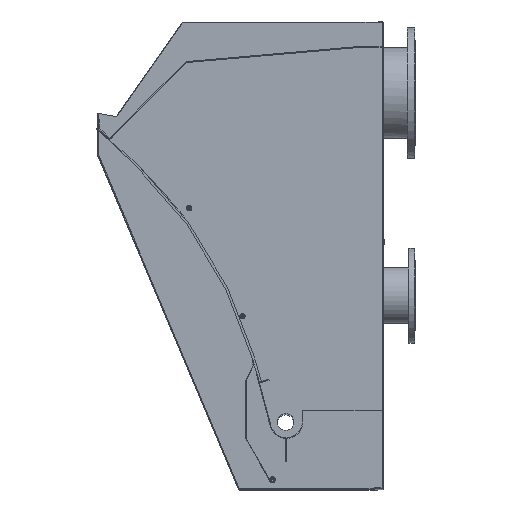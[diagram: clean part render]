
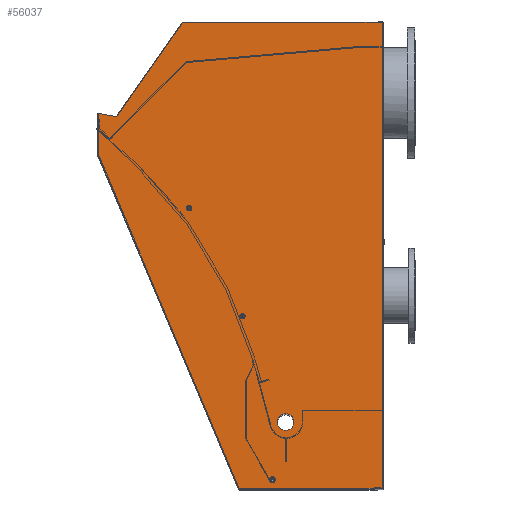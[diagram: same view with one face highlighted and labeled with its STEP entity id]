
A CAD part, top view. The second image highlights one B-rep face of the part: STEP entity #56037.
In plain terms, the highlighted planar face has unit normal (0, 0, 1).
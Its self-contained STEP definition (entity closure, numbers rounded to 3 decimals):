
#7353=LINE('',#97454,#12218);
#7355=LINE('',#97458,#12220);
#7364=LINE('',#97483,#12229);
#7366=LINE('',#97487,#12231);
#7374=LINE('',#97503,#12239);
#7386=LINE('',#97528,#12251);
#7399=LINE('',#97550,#12264);
#7410=LINE('',#97573,#12275);
#12218=VECTOR('',#68884,0.2);
#12220=VECTOR('',#68888,60.);
#12229=VECTOR('',#68913,140.3);
#12231=VECTOR('',#68917,43.);
#12239=VECTOR('',#68929,34.539);
#12251=VECTOR('',#68947,12.5);
#12264=VECTOR('',#68972,108.855);
#12275=VECTOR('',#69003,5.59);
#14196=PLANE('',#58852);
#15010=FACE_BOUND('',#21493,.T.);
#15011=FACE_BOUND('',#21494,.T.);
#15012=FACE_BOUND('',#21495,.T.);
#15013=FACE_BOUND('',#21496,.T.);
#17955=FACE_OUTER_BOUND('',#21492,.T.);
#21492=EDGE_LOOP('',(#49030,#49031,#49032,#49033,#49034,#49035,#49036,#49037));
#21493=EDGE_LOOP('',(#49038));
#21494=EDGE_LOOP('',(#49039));
#21495=EDGE_LOOP('',(#49040));
#21496=EDGE_LOOP('',(#49041));
#22228=CIRCLE('',#57132,0.8);
#22377=CIRCLE('',#58751,0.9);
#22409=CIRCLE('',#58826,2.5);
#22410=CIRCLE('',#58853,0.8);
#23162=VERTEX_POINT('',#72391);
#27169=VERTEX_POINT('',#97102);
#27296=VERTEX_POINT('',#97451);
#27297=VERTEX_POINT('',#97453);
#27298=VERTEX_POINT('',#97457);
#27300=VERTEX_POINT('',#97465);
#27306=VERTEX_POINT('',#97482);
#27307=VERTEX_POINT('',#97486);
#27313=VERTEX_POINT('',#97501);
#27322=VERTEX_POINT('',#97525);
#27323=VERTEX_POINT('',#97527);
#27329=VERTEX_POINT('',#97575);
#28461=EDGE_CURVE('',#23162,#23162,#22228,.T.);
#34435=EDGE_CURVE('',#27169,#27169,#22377,.T.);
#34595=EDGE_CURVE('',#27296,#27297,#7353,.T.);
#34597=EDGE_CURVE('',#27297,#27298,#7355,.T.);
#34600=EDGE_CURVE('',#27300,#27300,#22409,.T.);
#34608=EDGE_CURVE('',#27298,#27306,#7364,.T.);
#34610=EDGE_CURVE('',#27306,#27307,#7366,.T.);
#34618=EDGE_CURVE('',#27313,#27296,#7374,.T.);
#34630=EDGE_CURVE('',#27322,#27323,#7386,.T.);
#34643=EDGE_CURVE('',#27307,#27322,#7399,.T.);
#34654=EDGE_CURVE('',#27323,#27313,#7410,.T.);
#34655=EDGE_CURVE('',#27329,#27329,#22410,.T.);
#49030=ORIENTED_EDGE('',*,*,#34608,.F.);
#49031=ORIENTED_EDGE('',*,*,#34597,.F.);
#49032=ORIENTED_EDGE('',*,*,#34595,.F.);
#49033=ORIENTED_EDGE('',*,*,#34618,.F.);
#49034=ORIENTED_EDGE('',*,*,#34654,.F.);
#49035=ORIENTED_EDGE('',*,*,#34630,.F.);
#49036=ORIENTED_EDGE('',*,*,#34643,.F.);
#49037=ORIENTED_EDGE('',*,*,#34610,.F.);
#49038=ORIENTED_EDGE('',*,*,#34655,.T.);
#49039=ORIENTED_EDGE('',*,*,#28461,.T.);
#49040=ORIENTED_EDGE('',*,*,#34435,.T.);
#49041=ORIENTED_EDGE('',*,*,#34600,.F.);
#56037=ADVANCED_FACE('',(#17955,#15010,#15011,#15012,#15013),#14196,.T.);
#57132=AXIS2_PLACEMENT_3D('',#72392,#61164,#61165);
#58751=AXIS2_PLACEMENT_3D('',#97103,#68627,#68628);
#58826=AXIS2_PLACEMENT_3D('',#97466,#68898,#68899);
#58852=AXIS2_PLACEMENT_3D('',#97574,#69004,#69005);
#58853=AXIS2_PLACEMENT_3D('',#97576,#69006,#69007);
#61164=DIRECTION('center_axis',(0.,0.,
-1.));
#61165=DIRECTION('ref_axis',(-1.,0.,0.));
#68627=DIRECTION('center_axis',(0.,0.,
-1.));
#68628=DIRECTION('ref_axis',(1.,0.,0.));
#68884=DIRECTION('',(0.,1.,0.));
#68888=DIRECTION('',(1.,0.,0.));
#68898=DIRECTION('center_axis',(0.,0.,
1.));
#68899=DIRECTION('ref_axis',(0.,1.,0.));
#68913=DIRECTION('',(0.,-1.,0.));
#68917=DIRECTION('',(-1.,0.,0.));
#68929=DIRECTION('',(0.573,0.819,0.));
#68947=DIRECTION('',(0.,1.,0.));
#68972=DIRECTION('',(-0.389,0.921,0.));
#69003=DIRECTION('',(0.984,-0.179,0.));
#69004=DIRECTION('center_axis',(0.,0.,
1.));
#69005=DIRECTION('ref_axis',(0.,1.,0.));
#69006=DIRECTION('center_axis',(0.,0.,
-1.));
#69007=DIRECTION('ref_axis',(-1.,0.,0.));
#72391=CARTESIAN_POINT('',(-28.356,-48.6,95.2));
#72392=CARTESIAN_POINT('Origin',(-29.156,-48.6,95.2));
#97102=CARTESIAN_POINT('',(-3.256,-130.4,95.2));
#97103=CARTESIAN_POINT('Origin',(-4.156,-130.4,95.2));
#97451=CARTESIAN_POINT('',(-31.156,7.2,95.2));
#97453=CARTESIAN_POINT('',(-31.156,7.4,95.2));
#97454=CARTESIAN_POINT('',(-31.156,7.4,95.2));
#97457=CARTESIAN_POINT('',(28.844,7.4,95.2));
#97458=CARTESIAN_POINT('',(28.844,7.4,95.2));
#97465=CARTESIAN_POINT('',(-0.156,-115.5,95.2));
#97466=CARTESIAN_POINT('Origin',(-0.156,-113.,95.2));
#97482=CARTESIAN_POINT('',(28.844,-132.9,95.2));
#97483=CARTESIAN_POINT('',(28.844,7.2,95.2));
#97486=CARTESIAN_POINT('',(-14.156,-132.9,95.2));
#97487=CARTESIAN_POINT('',(28.844,-132.9,95.2));
#97501=CARTESIAN_POINT('',(-50.956,-21.1,95.2));
#97503=CARTESIAN_POINT('',(-50.956,-21.1,95.2));
#97525=CARTESIAN_POINT('',(-56.456,-32.6,95.2));
#97527=CARTESIAN_POINT('',(-56.456,-20.1,95.2));
#97528=CARTESIAN_POINT('',(-56.456,-32.6,95.2));
#97550=CARTESIAN_POINT('',(-14.156,-132.9,95.2));
#97573=CARTESIAN_POINT('',(-56.456,-20.1,95.2));
#97574=CARTESIAN_POINT('Origin',(-4.893,-58.777,95.2));
#97575=CARTESIAN_POINT('',(-12.356,-81.1,95.2));
#97576=CARTESIAN_POINT('Origin',(-13.156,-81.1,95.2));
